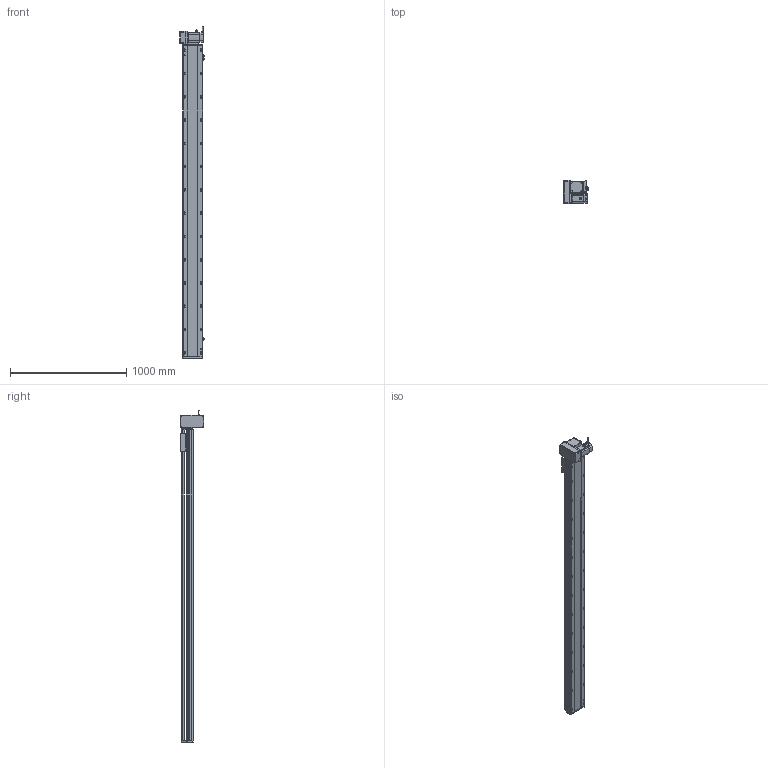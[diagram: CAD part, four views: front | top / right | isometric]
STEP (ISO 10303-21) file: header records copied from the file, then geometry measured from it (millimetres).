
FILE_DESCRIPTION (( 'STEP AP214' ), '1' );
FILE_NAME ('RTB17S-XX-2400-LM-M75-C4.STEP', '2025-12-12T00:46:21', ( '' ), ( '' ), 'SwSTEP 2.0', 'SolidWorks 2018', '' );
FILE_SCHEMA (( 'AUTOMOTIVE_DESIGN' ));
Length unit declared in the file: millimetre
Products named in the file (15): RTB17S-賑釱^RTB17S-XX-XX-LM-M75-C4; RTB17S-L-004-賑釱^RTB17S-賑釱_RTB17S-XX-XX-LM-M75-C4; RTB22S-GY-008-M75--萇儂啣^RTB17S-LM-々湍釱蚾饜-750W_RTB17S-XX-XX-LM-M75-C4; RTB17S-L-001-耜醱啣^RTB17S-XX-XX-LM-M75-C4; RTH13-BL-012覜茼え俋离^RTB17S-賑釱_RTB17S-XX-XX-LM-M75-C4; RTB22S-GY-005P^RTB17S-LM-々湍釱蚾饜-750W_RTB17S-XX-XX-LM-M75-C4; RTB17S-LM-々湍釱蚾饜-750W^RTB17S-XX-XX-LM-M75-C4; RTB17S-L-007奻裔^RTB17S-XX-XX-LM-M75-C4; RTB22S-GY-017P^RTB17S-LM-々湍釱蚾饜-750W_RTB17S-XX-XX-LM-M75-C4; RTB17S-XX-2400-LM-M75-C4; RTB17S-L-014-T20-P75--々湍釱^RTB17S-LM-々湍釱蚾饜-750W_RTB17S-XX-XX-LM-M75-C4; 750W萇儂^RTB17S-XX-XX-LM-M75-C4; EE672^RTB17S-XX-XX-LM-M75-C4; RTB17-R-011菁釱^RTB17S-XX-XX-LM-M75-C4; RTB22S-GY-018P^RTB17S-LM-々湍釱蚾饜-750W_RTB17S-XX-XX-LM-M75-C4
Assembly tree (17 placements, depth 3):
  RTB17S-XX-2400-LM-M75-C4
    RTB17-R-011菁釱^RTB17S-XX-XX-LM-M75-C4
    EE672^RTB17S-XX-XX-LM-M75-C4  x3
    RTB17S-L-001-耜醱啣^RTB17S-XX-XX-LM-M75-C4
    RTB17S-賑釱^RTB17S-XX-XX-LM-M75-C4
      RTB17S-L-004-賑釱^RTB17S-賑釱_RTB17S-XX-XX-LM-M75-C4
      RTH13-BL-012覜茼え俋离^RTB17S-賑釱_RTB17S-XX-XX-LM-M75-C4
    RTB17S-L-007奻裔^RTB17S-XX-XX-LM-M75-C4
    750W萇儂^RTB17S-XX-XX-LM-M75-C4
    RTB17S-LM-々湍釱蚾饜-750W^RTB17S-XX-XX-LM-M75-C4
      RTB17S-L-014-T20-P75--々湍釱^RTB17S-LM-々湍釱蚾饜-750W_RTB17S-XX-XX-LM-M75-C4
      RTB22S-GY-005P^RTB17S-LM-々湍釱蚾饜-750W_RTB17S-XX-XX-LM-M75-C4
      RTB22S-GY-017P^RTB17S-LM-々湍釱蚾饜-750W_RTB17S-XX-XX-LM-M75-C4  x2
      RTB22S-GY-008-M75--萇儂啣^RTB17S-LM-々湍釱蚾饜-750W_RTB17S-XX-XX-LM-M75-C4
      RTB22S-GY-018P^RTB17S-LM-々湍釱蚾饜-750W_RTB17S-XX-XX-LM-M75-C4
Bounding box: 210.4 x 200 x 2852.2 mm (x, y, z)
Volume: 20955382.6 mm3; surface area: 3789680.6 mm2
Topology: 17 solids, 17 shells, 2201 faces, 6160 edges, 3986 vertices
Faces by surface type: plane 984, cylinder 801, bspline 294, cone 110, sphere 8, torus 4
Entity records: 63478 total; most frequent: CARTESIAN_POINT 18824, ORIENTED_EDGE 9164, DIRECTION 8492, EDGE_CURVE 4582, AXIS2_PLACEMENT_3D 3006, VERTEX_POINT 2990, LINE 2480, VECTOR 2480
